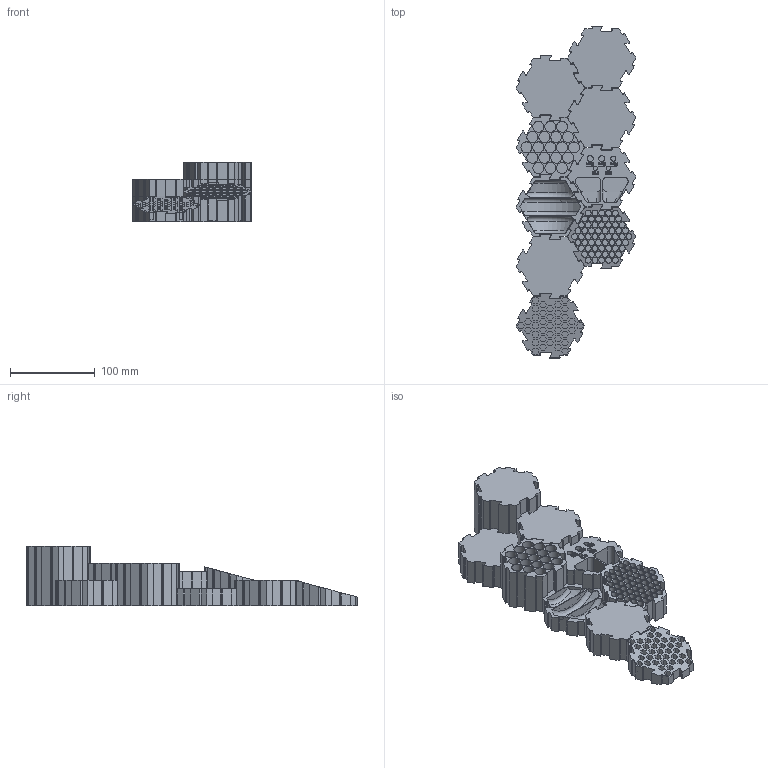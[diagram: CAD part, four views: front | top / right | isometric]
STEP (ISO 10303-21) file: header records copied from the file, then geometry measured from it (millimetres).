
FILE_DESCRIPTION(/* description */ (''),/* implementation_level */ '2;1');
FILE_NAME(/* name */ 'I:/3D_Drucker/OpenHexBoxes/openhexboxes.step',/* time_stamp */ '2017-09-28T10:52:36+02:00',/* author */ (''),/* organization */ (''),/* preprocessor_version */ 'ST-DEVELOPER v16.13',/* originating_system */ 'Autodesk Translation Framework v6.1.1.50',/* authorisation */ '');
FILE_SCHEMA (('AUTOMOTIVE_DESIGN { 1 0 10303 214 3 1 1 }'));
Products named in the file (1): main v7
Bounding box: 140.99 x 390.6 x 70 mm (x, y, z)
Volume: 1139784.3 mm3; surface area: 298820.6 mm2
Topology: 12 solids, 12 shells, 6404 faces, 15899 edges, 10619 vertices
Faces by surface type: plane 5679, cylinder 623, bspline 94, torus 6, cone 2
Full cylindrical faces by diameter (mm): 5 x2, 6 x1, 7 x62, 7.2 x1, 13 x19
Entity records: 187466 total; most frequent: CARTESIAN_POINT 34538, ORIENTED_EDGE 31506, DIRECTION 29439, EDGE_CURVE 15753, LINE 14281, VECTOR 14281, VERTEX_POINT 10558, EDGE_LOOP 7589
